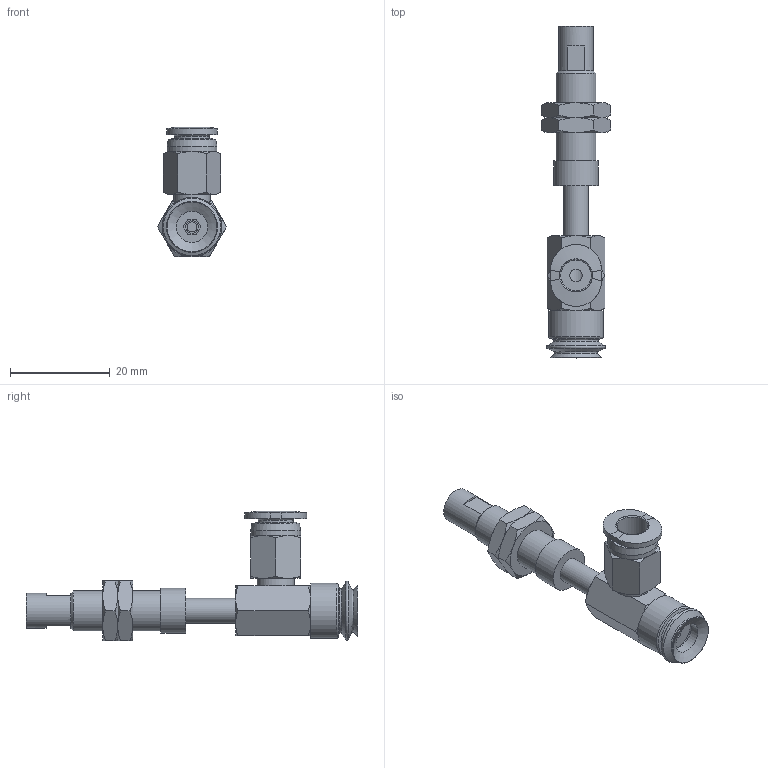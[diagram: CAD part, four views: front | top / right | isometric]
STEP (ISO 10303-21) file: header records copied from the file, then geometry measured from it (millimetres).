
FILE_DESCRIPTION(('STEP AP203'),'1');
FILE_NAME('-O.stp','2025-04-24T00:37:39',(' '),(' '),'Spatial InterOp 3D',' ',' ');
FILE_SCHEMA(('CONFIG_CONTROL_DESIGN'));
Length unit declared in the file: millimetre
Products named in the file (8): BNABPJYS-10-10-※-O; Adapter-10-NAPJ; CONNECTOR_S-10-10; NUT-NAPJ-10-10-s; NAPJTS-10-10-FBODY; NAPJTS-10-10-MBODY; BPJG-10-※; PC-C_06-M5
Assembly tree (8 placements, depth 2):
  BNABPJYS-10-10-※-O
    Adapter-10-NAPJ
    CONNECTOR_S-10-10
    NUT-NAPJ-10-10-s  x2
    NAPJTS-10-10-FBODY
    NAPJTS-10-10-MBODY
    BPJG-10-※
    PC-C_06-M5
Bounding box: 13.86 x 66.5 x 25.98 mm (x, y, z)
Volume: 3937 mm3; surface area: 5881 mm2
Topology: 7 solids, 10 shells, 187 faces, 388 edges, 235 vertices
Faces by surface type: plane 74, cone 69, cylinder 28, torus 9, bspline 4, revolution 3
Full cylindrical faces by diameter (mm): 2 x1, 2.5 x1, 4 x2, 4.134 x3, 4.6 x1, 5 x5, 6.266 x1, 7 x2, 7.188 x2, 7.4 x1, 7.8 x1, 8 x2, 8.2 x1, 9 x1, 10 x1, 11 x1
Entity records: 4798 total; most frequent: CARTESIAN_POINT 1282, DIRECTION 653, ORIENTED_EDGE 546, AXIS2_PLACEMENT_3D 288, EDGE_CURVE 275, EDGE_LOOP 248, VERTEX_POINT 197, FACE_OUTER_BOUND 138
